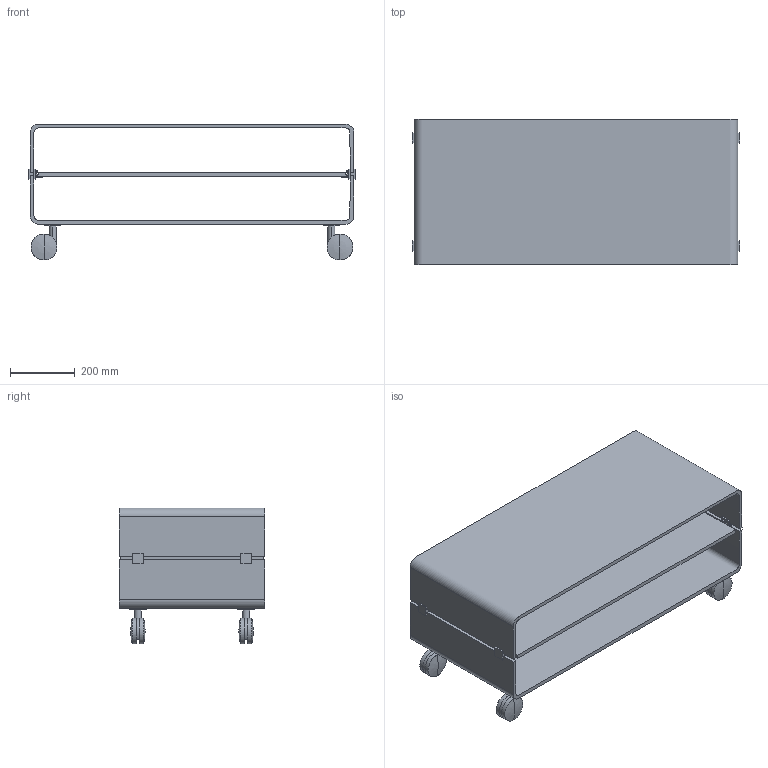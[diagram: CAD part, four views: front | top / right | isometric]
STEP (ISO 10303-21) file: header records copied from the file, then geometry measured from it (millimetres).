
FILE_DESCRIPTION(/* description */ (''),/* implementation_level */ '2;1');
FILE_NAME(/* name */ '280.391 - C&C Large ruote',/* time_stamp */ '2010-11-04T15:28:16+01:00',/* author */ (''),/* organization */ (''),/* preprocessor_version */ 'ST-DEVELOPER v10',/* originating_system */ '',/* authorisation */ '');
FILE_SCHEMA (('CONFIG_CONTROL_DESIGN'));
Length unit declared in the file: centimetre
Products named in the file (1): 1
Bounding box: 1010 x 450 x 420 mm (x, y, z)
Volume: 23894735.8 mm3; surface area: 3526825.9 mm2
Topology: 43 solids, 43 shells, 228 faces, 458 edges, 284 vertices
Faces by surface type: plane 156, bspline 72
Entity records: 5730 total; most frequent: CARTESIAN_POINT 2542, ORIENTED_EDGE 852, EDGE_CURVE 426, B_SPLINE_CURVE_WITH_KNOTS 298, VERTEX_POINT 284, ADVANCED_FACE 228, FACE_OUTER_BOUND 228, EDGE_LOOP 228
